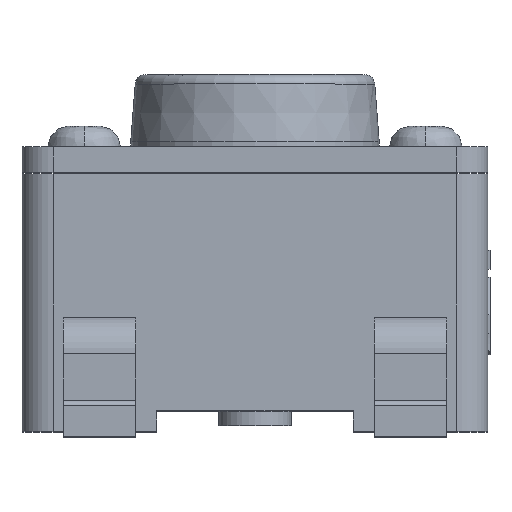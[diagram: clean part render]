
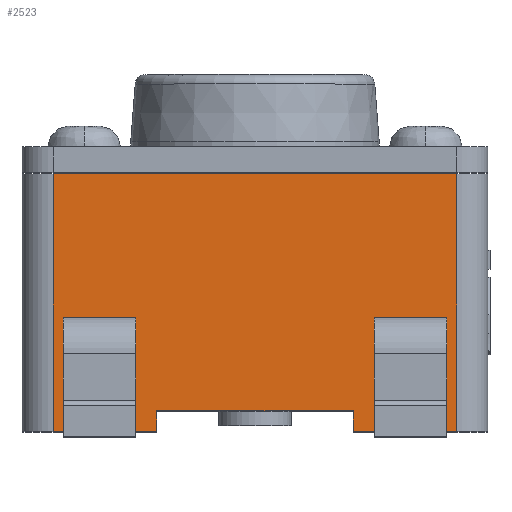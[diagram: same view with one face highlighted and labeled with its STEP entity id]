
A CAD part, top view. The second image highlights one B-rep face of the part: STEP entity #2523.
In plain terms, the highlighted planar face has unit normal (0, 0, 1).
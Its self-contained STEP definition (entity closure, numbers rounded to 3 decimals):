
#52=DIRECTION('',(1.,0.,0.));
#53=VECTOR('',#52,3.9);
#54=CARTESIAN_POINT('',(-1.95,2.49,2.25));
#55=LINE('',#54,#53);
#56=DIRECTION('',(0.,1.,0.));
#57=VECTOR('',#56,2.49);
#58=CARTESIAN_POINT('',(-1.95,0.,2.25));
#59=LINE('',#58,#57);
#60=DIRECTION('',(0.,1.,0.));
#61=VECTOR('',#60,2.49);
#62=CARTESIAN_POINT('',(1.95,0.,2.25));
#63=LINE('',#62,#61);
#343=DIRECTION('',(1.,0.,0.));
#344=VECTOR('',#343,1.9);
#345=CARTESIAN_POINT('',(-0.95,0.2,2.25));
#346=LINE('',#345,#344);
#386=DIRECTION('',(1.,0.,0.));
#387=VECTOR('',#386,1.);
#388=CARTESIAN_POINT('',(-1.95,0.,2.25));
#389=LINE('',#388,#387);
#402=DIRECTION('',(0.,1.,0.));
#403=VECTOR('',#402,0.2);
#404=CARTESIAN_POINT('',(-0.95,0.,2.25));
#405=LINE('',#404,#403);
#418=DIRECTION('',(0.,-1.,0.));
#419=VECTOR('',#418,0.2);
#420=CARTESIAN_POINT('',(0.95,0.2,2.25));
#421=LINE('',#420,#419);
#435=DIRECTION('',(1.,0.,0.));
#436=VECTOR('',#435,1.);
#437=CARTESIAN_POINT('',(0.95,0.,2.25));
#438=LINE('',#437,#436);
#1218=DIRECTION('',(0.,-1.,0.));
#1219=VECTOR('',#1218,0.304);
#1220=CARTESIAN_POINT('',(-1.15,1.099,2.25));
#1221=LINE('',#1220,#1219);
#1237=DIRECTION('',(1.,0.,0.));
#1238=VECTOR('',#1237,0.7);
#1239=CARTESIAN_POINT('',(-1.85,1.099,2.25));
#1240=LINE('',#1239,#1238);
#1289=DIRECTION('',(-1.,0.,0.));
#1290=VECTOR('',#1289,0.7);
#1291=CARTESIAN_POINT('',(-1.15,0.796,2.25));
#1292=LINE('',#1291,#1290);
#1337=DIRECTION('',(0.,1.,0.));
#1338=VECTOR('',#1337,0.304);
#1339=CARTESIAN_POINT('',(-1.85,0.796,2.25));
#1340=LINE('',#1339,#1338);
#1361=DIRECTION('',(0.,1.,0.));
#1362=VECTOR('',#1361,0.304);
#1363=CARTESIAN_POINT('',(1.15,0.796,2.25));
#1364=LINE('',#1363,#1362);
#1365=DIRECTION('',(1.,0.,0.));
#1366=VECTOR('',#1365,0.7);
#1367=CARTESIAN_POINT('',(1.15,1.099,2.25));
#1368=LINE('',#1367,#1366);
#1374=DIRECTION('',(0.,-1.,0.));
#1375=VECTOR('',#1374,0.304);
#1376=CARTESIAN_POINT('',(1.85,1.099,2.25));
#1377=LINE('',#1376,#1375);
#1393=DIRECTION('',(-1.,0.,0.));
#1394=VECTOR('',#1393,0.7);
#1395=CARTESIAN_POINT('',(1.85,0.796,2.25));
#1396=LINE('',#1395,#1394);
#1837=CARTESIAN_POINT('',(1.95,2.49,2.25));
#1838=VERTEX_POINT('',#1837);
#1839=CARTESIAN_POINT('',(-1.95,2.49,2.25));
#1840=VERTEX_POINT('',#1839);
#1855=CARTESIAN_POINT('',(-1.95,0.,2.25));
#1856=VERTEX_POINT('',#1855);
#1857=CARTESIAN_POINT('',(0.95,0.,2.25));
#1858=CARTESIAN_POINT('',(1.95,0.,2.25));
#1859=VERTEX_POINT('',#1857);
#1860=VERTEX_POINT('',#1858);
#1861=CARTESIAN_POINT('',(-0.95,0.2,2.25));
#1862=CARTESIAN_POINT('',(0.95,0.2,2.25));
#1863=VERTEX_POINT('',#1861);
#1864=VERTEX_POINT('',#1862);
#1865=CARTESIAN_POINT('',(-0.95,0.,2.25));
#1866=VERTEX_POINT('',#1865);
#1867=CARTESIAN_POINT('',(-1.85,0.796,2.25));
#1868=CARTESIAN_POINT('',(-1.85,1.099,2.25));
#1869=VERTEX_POINT('',#1867);
#1870=VERTEX_POINT('',#1868);
#1871=CARTESIAN_POINT('',(1.15,0.796,2.25));
#1872=CARTESIAN_POINT('',(1.15,1.099,2.25));
#1873=VERTEX_POINT('',#1871);
#1874=VERTEX_POINT('',#1872);
#1998=CARTESIAN_POINT('',(-1.15,1.099,2.25));
#2000=VERTEX_POINT('',#1998);
#2001=CARTESIAN_POINT('',(-1.15,0.796,2.25));
#2002=VERTEX_POINT('',#2001);
#2049=CARTESIAN_POINT('',(1.85,1.099,2.25));
#2050=VERTEX_POINT('',#2049);
#2053=CARTESIAN_POINT('',(1.85,0.796,2.25));
#2054=VERTEX_POINT('',#2053);
#2482=CARTESIAN_POINT('',(0.,1.245,2.25));
#2483=DIRECTION('',(0.,0.,1.));
#2484=DIRECTION('',(1.,0.,0.));
#2485=AXIS2_PLACEMENT_3D('',#2482,#2483,#2484);
#2486=PLANE('',#2485);
#2487=ORIENTED_EDGE('',*,*,#2434,.T.);
#2489=ORIENTED_EDGE('',*,*,#2488,.F.);
#2491=ORIENTED_EDGE('',*,*,#2490,.F.);
#2493=ORIENTED_EDGE('',*,*,#2492,.F.);
#2495=ORIENTED_EDGE('',*,*,#2494,.F.);
#2497=ORIENTED_EDGE('',*,*,#2496,.F.);
#2499=ORIENTED_EDGE('',*,*,#2498,.F.);
#2500=ORIENTED_EDGE('',*,*,#2474,.T.);
#2501=EDGE_LOOP('',(#2487,#2489,#2491,#2493,#2495,#2497,#2499,#2500));
#2502=FACE_OUTER_BOUND('',#2501,.F.);
#2504=ORIENTED_EDGE('',*,*,#2503,.F.);
#2506=ORIENTED_EDGE('',*,*,#2505,.F.);
#2508=ORIENTED_EDGE('',*,*,#2507,.F.);
#2510=ORIENTED_EDGE('',*,*,#2509,.F.);
#2511=EDGE_LOOP('',(#2504,#2506,#2508,#2510));
#2512=FACE_BOUND('',#2511,.F.);
#2514=ORIENTED_EDGE('',*,*,#2513,.F.);
#2516=ORIENTED_EDGE('',*,*,#2515,.F.);
#2518=ORIENTED_EDGE('',*,*,#2517,.F.);
#2520=ORIENTED_EDGE('',*,*,#2519,.F.);
#2521=EDGE_LOOP('',(#2514,#2516,#2518,#2520));
#2522=FACE_BOUND('',#2521,.F.);
#2434=EDGE_CURVE('',#1840,#1838,#55,.T.);
#2474=EDGE_CURVE('',#1856,#1840,#59,.T.);
#2488=EDGE_CURVE('',#1860,#1838,#63,.T.);
#2490=EDGE_CURVE('',#1859,#1860,#438,.T.);
#2492=EDGE_CURVE('',#1864,#1859,#421,.T.);
#2494=EDGE_CURVE('',#1863,#1864,#346,.T.);
#2496=EDGE_CURVE('',#1866,#1863,#405,.T.);
#2498=EDGE_CURVE('',#1856,#1866,#389,.T.);
#2503=EDGE_CURVE('',#2000,#2002,#1221,.T.);
#2505=EDGE_CURVE('',#1870,#2000,#1240,.T.);
#2507=EDGE_CURVE('',#1869,#1870,#1340,.T.);
#2509=EDGE_CURVE('',#2002,#1869,#1292,.T.);
#2513=EDGE_CURVE('',#1873,#1874,#1364,.T.);
#2515=EDGE_CURVE('',#2054,#1873,#1396,.T.);
#2517=EDGE_CURVE('',#2050,#2054,#1377,.T.);
#2519=EDGE_CURVE('',#1874,#2050,#1368,.T.);
#2523=ADVANCED_FACE('',(#2502,#2512,#2522),#2486,.T.);
